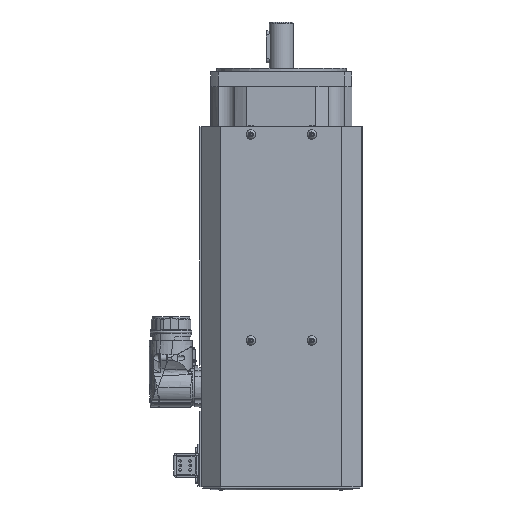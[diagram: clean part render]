
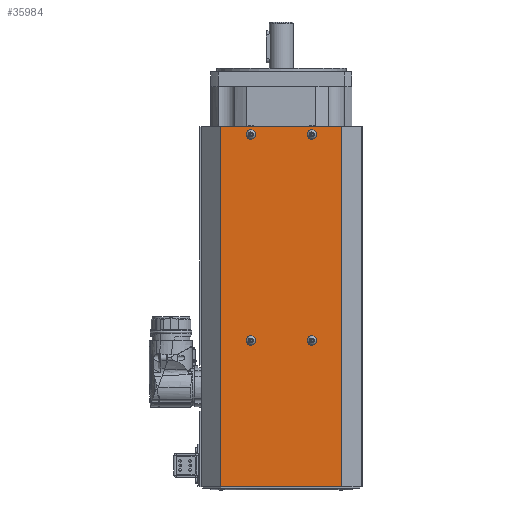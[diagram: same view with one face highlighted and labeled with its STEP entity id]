
A CAD part, left-side view. The second image highlights one B-rep face of the part: STEP entity #35984.
In plain terms, the highlighted planar face has unit normal (-1, 0, 0).
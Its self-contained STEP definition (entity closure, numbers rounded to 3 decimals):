
#4111=LINE('',#70525,#6043);
#4124=LINE('',#70547,#6056);
#4125=LINE('',#70549,#6057);
#4126=LINE('',#70550,#6058);
#6043=VECTOR('',#48414,362.);
#6056=VECTOR('',#48435,362.);
#6057=VECTOR('',#48438,121.6);
#6058=VECTOR('',#48439,121.6);
#8786=FACE_BOUND('',#13554,.T.);
#8787=FACE_BOUND('',#13555,.T.);
#8788=FACE_BOUND('',#13556,.T.);
#8789=FACE_BOUND('',#13557,.T.);
#8790=FACE_BOUND('',#13558,.T.);
#13554=EDGE_LOOP('',(#32170));
#13555=EDGE_LOOP('',(#32171));
#13556=EDGE_LOOP('',(#32172));
#13557=EDGE_LOOP('',(#32173));
#13558=EDGE_LOOP('',(#32174,#32175,#32176,#32177));
#15190=CIRCLE('',#39304,4.75);
#15204=CIRCLE('',#39339,4.75);
#15218=CIRCLE('',#39374,4.75);
#15232=CIRCLE('',#39409,4.75);
#18277=VERTEX_POINT('',#69707);
#18297=VERTEX_POINT('',#69792);
#18317=VERTEX_POINT('',#69877);
#18337=VERTEX_POINT('',#69962);
#18491=VERTEX_POINT('',#70522);
#18492=VERTEX_POINT('',#70524);
#18496=VERTEX_POINT('',#70543);
#18497=VERTEX_POINT('',#70545);
#22762=EDGE_CURVE('',#18277,#18277,#15190,.T.);
#22794=EDGE_CURVE('',#18297,#18297,#15204,.T.);
#22826=EDGE_CURVE('',#18317,#18317,#15218,.T.);
#22858=EDGE_CURVE('',#18337,#18337,#15232,.T.);
#23092=EDGE_CURVE('',#18491,#18492,#4111,.T.);
#23105=EDGE_CURVE('',#18496,#18497,#4124,.T.);
#23106=EDGE_CURVE('',#18496,#18491,#4125,.T.);
#23107=EDGE_CURVE('',#18497,#18492,#4126,.T.);
#32170=ORIENTED_EDGE('',*,*,#22762,.T.);
#32171=ORIENTED_EDGE('',*,*,#22794,.T.);
#32172=ORIENTED_EDGE('',*,*,#22826,.T.);
#32173=ORIENTED_EDGE('',*,*,#22858,.T.);
#32174=ORIENTED_EDGE('',*,*,#23106,.F.);
#32175=ORIENTED_EDGE('',*,*,#23105,.T.);
#32176=ORIENTED_EDGE('',*,*,#23107,.T.);
#32177=ORIENTED_EDGE('',*,*,#23092,.F.);
#33913=PLANE('',#39610);
#35984=ADVANCED_FACE('',(#8786,#8787,#8788,#8789,#8790),#33913,.T.);
#39304=AXIS2_PLACEMENT_3D('',#69708,#47636,#47637);
#39339=AXIS2_PLACEMENT_3D('',#69793,#47718,#47719);
#39374=AXIS2_PLACEMENT_3D('',#69878,#47800,#47801);
#39409=AXIS2_PLACEMENT_3D('',#69963,#47882,#47883);
#39610=AXIS2_PLACEMENT_3D('',#70548,#48436,#48437);
#47636=DIRECTION('center_axis',(1.,0.,0.));
#47637=DIRECTION('ref_axis',(0.,0.,-1.));
#47718=DIRECTION('center_axis',(1.,0.,0.));
#47719=DIRECTION('ref_axis',(0.,0.,-1.));
#47800=DIRECTION('center_axis',(1.,0.,0.));
#47801=DIRECTION('ref_axis',(0.,0.,-1.));
#47882=DIRECTION('center_axis',(1.,0.,0.));
#47883=DIRECTION('ref_axis',(0.,0.,-1.));
#48414=DIRECTION('',(0.,0.,-1.));
#48435=DIRECTION('',(0.,0.,-1.));
#48436=DIRECTION('center_axis',(-1.,0.,0.));
#48437=DIRECTION('ref_axis',(0.,1.,0.));
#48438=DIRECTION('',(0.,-1.,0.));
#48439=DIRECTION('',(0.,-1.,0.));
#69707=CARTESIAN_POINT('',(-80.2,-30.65,-250.25));
#69708=CARTESIAN_POINT('Origin',(-80.2,-30.65,-255.));
#69792=CARTESIAN_POINT('',(-80.2,-30.65,-43.25));
#69793=CARTESIAN_POINT('Origin',(-80.2,-30.65,-48.));
#69877=CARTESIAN_POINT('',(-80.2,30.65,-250.25));
#69878=CARTESIAN_POINT('Origin',(-80.2,30.65,-255.));
#69962=CARTESIAN_POINT('',(-80.2,30.65,-43.25));
#69963=CARTESIAN_POINT('Origin',(-80.2,30.65,-48.));
#70522=CARTESIAN_POINT('',(-80.2,-60.8,-40.));
#70524=CARTESIAN_POINT('',(-80.2,-60.8,-402.));
#70525=CARTESIAN_POINT('',(-80.2,-60.8,-40.));
#70543=CARTESIAN_POINT('',(-80.2,60.8,-40.));
#70545=CARTESIAN_POINT('',(-80.2,60.8,-402.));
#70547=CARTESIAN_POINT('',(-80.2,60.8,-40.));
#70548=CARTESIAN_POINT('Origin',(-80.2,0.,-40.));
#70549=CARTESIAN_POINT('',(-80.2,60.8,-40.));
#70550=CARTESIAN_POINT('',(-80.2,-60.8,-402.));
